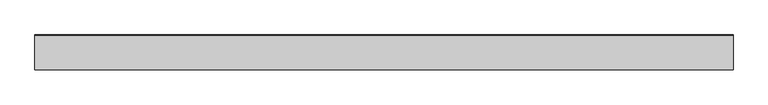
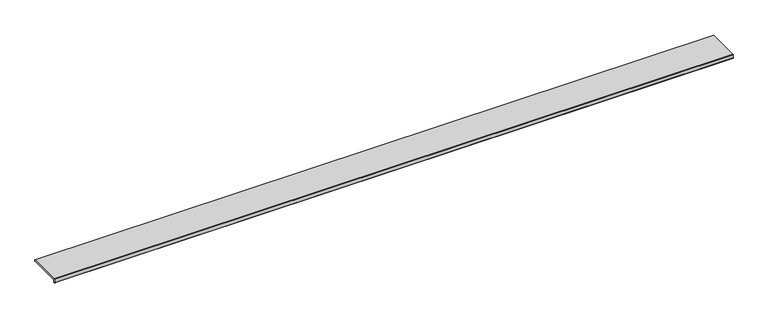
"""IFC4 building model written with IfcOpenShell, lengths in millimetres: proxy geometry, Muestra 6.32m L62 : Muestra 6.32m L62."""

from ifc_helpers import new_model, si_unit, point, frame, frame_2d, origin, place, context, project, spatial, polyline, circle_curve, trimmed, segment, composite_curve, outline, extrude, source, transform, mapped, element, save


def generic_models_ffed2a8b(model_context):
    return source(origin(), model_context, "Body", "SweptSolid", [
        extrude(outline(composite_curve([segment(polyline([(15865.2643717, -34.5), (15865.2643717, -2.5), (15867.7643717, 0.0), (16179.7643717, 0.0), (16182.2643717, -2.5), (16182.2643717, -11.5)]), True, "CONTINUOUS"), segment(trimmed(circle_curve(frame_2d((16179.7643717, -11.5)), 2.5), [point((16182.2643717, -11.5))], [point((16179.7643717, -14.0))], False, "CARTESIAN"), True, "CONTINUOUS"), segment(polyline([(16179.7643717, -14.0), (15881.7643717, -14.0)]), True, "CONTINUOUS"), segment(trimmed(circle_curve(frame_2d((15881.7643717, -16.5)), 2.5), [point((15881.7643717, -14.0))], [point((15879.2643717, -16.5))], True, "CARTESIAN"), True, "CONTINUOUS"), segment(polyline([(15879.2643717, -16.5), (15879.2643717, -34.5)]), True, "CONTINUOUS"), segment(trimmed(circle_curve(frame_2d((15876.7643717, -34.5)), 2.5), [point((15879.2643717, -34.5))], [point((15876.7643717, -37.0))], False, "CARTESIAN"), True, "CONTINUOUS"), segment(polyline([(15876.7643717, -37.0), (15867.7643717, -37.0)]), True, "CONTINUOUS"), segment(trimmed(circle_curve(frame_2d((15867.7643717, -34.5)), 2.5), [point((15867.7643717, -37.0))], [point((15865.2643717, -34.5))], False, "CARTESIAN"), True, "CONTINUOUS")], self_intersect=False)), frame((46563.4734252, 0.0, 0.0), z_axis=(1.0, 0.0, 0.0), x_axis=(0.0, 1.0, 0.0)), (0.0, 0.0, 1.0), 6320.0),
    ])


if __name__ == "__main__":
    model = new_model("IFC4")
    model_context = context("Model", 3, world=origin())
    ifc_project = project(units=[si_unit("LENGTHUNIT", "METRE", prefix="MILLI")], contexts=[model_context])
    site = spatial("IfcSite", under=ifc_project)
    building = spatial("IfcBuilding", under=site)
    placement = place(None, origin())
    generic_models_shape = generic_models_ffed2a8b(model_context)
    element("IfcBuildingElementProxy", 1, Name="Muestra 6.32m L62 : Muestra 6.32m L62", ObjectType="Muestra 6.32m L62 : Muestra 6.32m L62", at=placement, inside=building, context=model_context, shape_type="MappedRepresentation", body=[
        mapped(generic_models_shape, transform((0.0, 0.0, 0.0), x_axis=(1.0, 0.0, 0.0), y_axis=(0.0, 1.0, 0.0), z_axis=(0.0, 0.0, 1.0))),
    ])
    save(model, "model.ifc")
